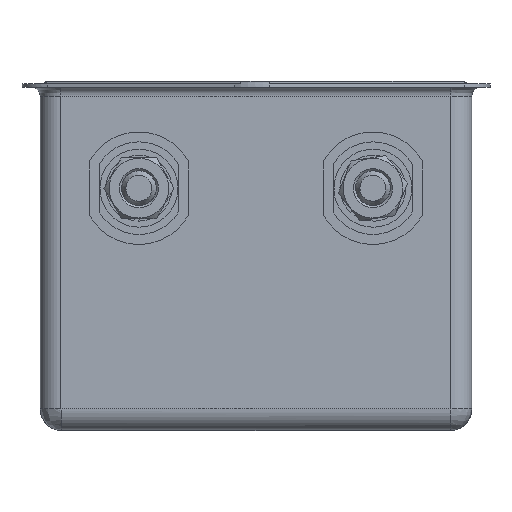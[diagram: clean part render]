
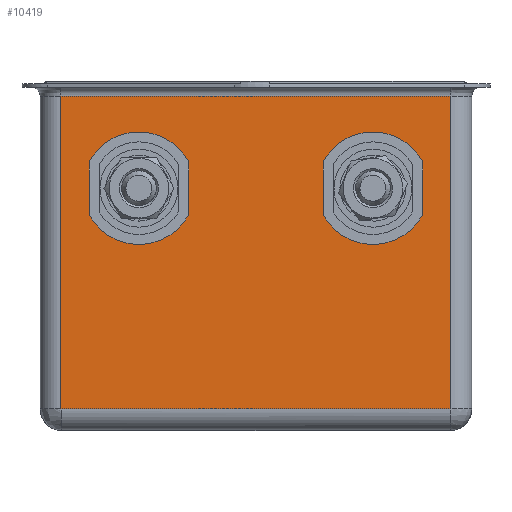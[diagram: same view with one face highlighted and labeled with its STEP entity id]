
A CAD part, left-side view. The second image highlights one B-rep face of the part: STEP entity #10419.
In plain terms, the highlighted planar face has unit normal (-1, 0, 0).
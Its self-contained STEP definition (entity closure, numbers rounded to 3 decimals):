
#6710=CARTESIAN_POINT('',(-18.073,32.813,2.5));
#6711=VERTEX_POINT('',#6710);
#6720=CARTESIAN_POINT('',(-18.073,-12.187,2.5));
#6721=VERTEX_POINT('',#6720);
#6729=CARTESIAN_POINT('',(-18.073,-12.187,2.5));
#6730=DIRECTION('',(0.0,1.0,0.0));
#6731=VECTOR('',#6730,45.0);
#6732=LINE('',#6729,#6731);
#6733=EDGE_CURVE('',#6721,#6711,#6732,.T.);
#6994=CARTESIAN_POINT('',(-18.073,32.813,38.6));
#6995=VERTEX_POINT('',#6994);
#7005=CARTESIAN_POINT('',(-18.073,32.813,2.5));
#7006=DIRECTION('',(0.0,0.0,1.0));
#7007=VECTOR('',#7006,36.1);
#7008=LINE('',#7005,#7007);
#7009=EDGE_CURVE('',#6711,#6995,#7008,.T.);
#7019=CARTESIAN_POINT('',(-18.073,-12.187,38.6));
#7020=VERTEX_POINT('',#7019);
#7030=CARTESIAN_POINT('',(-18.073,-12.187,38.6));
#7031=DIRECTION('',(0.0,0.0,-1.0));
#7032=VECTOR('',#7031,36.1);
#7033=LINE('',#7030,#7032);
#7034=EDGE_CURVE('',#7020,#6721,#7033,.T.);
#8003=CARTESIAN_POINT('',(-18.073,32.813,38.6));
#8004=DIRECTION('',(0.0,-1.0,0.0));
#8005=VECTOR('',#8004,45.);
#8006=LINE('',#8003,#8005);
#8007=EDGE_CURVE('',#6995,#7020,#8006,.T.);
#10160=CARTESIAN_POINT('',(-18.073,2.574,24.943));
#10161=VERTEX_POINT('',#10160);
#10162=CARTESIAN_POINT('',(-18.073,2.574,31.005));
#10163=VERTEX_POINT('',#10162);
#10164=CARTESIAN_POINT('',(-18.073,2.574,24.943));
#10165=DIRECTION('',(0.0,0.0,1.0));
#10166=VECTOR('',#10165,6.062);
#10167=LINE('',#10164,#10166);
#10168=EDGE_CURVE('',#10161,#10163,#10167,.T.);
#10191=CARTESIAN_POINT('',(-18.073,-8.926,31.005));
#10192=VERTEX_POINT('',#10191);
#10193=CARTESIAN_POINT('',(-18.073,-3.176,27.974));
#10194=DIRECTION('',(1.0,0.,0.));
#10195=DIRECTION('',(0.,-0.885,-0.466));
#10196=AXIS2_PLACEMENT_3D('',#10193,#10194,#10195);
#10197=CIRCLE('',#10196,6.5);
#10198=EDGE_CURVE('',#10163,#10192,#10197,.T.);
#10216=CARTESIAN_POINT('',(-18.073,-8.926,24.943));
#10217=VERTEX_POINT('',#10216);
#10218=CARTESIAN_POINT('',(-18.073,-8.926,31.005));
#10219=DIRECTION('',(0.0,0.0,-1.0));
#10220=VECTOR('',#10219,6.062);
#10221=LINE('',#10218,#10220);
#10222=EDGE_CURVE('',#10192,#10217,#10221,.T.);
#10240=CARTESIAN_POINT('',(-18.073,-3.176,27.974));
#10241=DIRECTION('',(1.0,0.,0.));
#10242=DIRECTION('',(0.,0.885,0.466));
#10243=AXIS2_PLACEMENT_3D('',#10240,#10241,#10242);
#10244=CIRCLE('',#10243,6.5);
#10245=EDGE_CURVE('',#10217,#10161,#10244,.T.);
#10366=CARTESIAN_POINT('',(-18.073,-14.587,0.0));
#10367=DIRECTION('',(-1.0,0.0,0.0));
#10368=DIRECTION('',(0.0,0.0,1.0));
#10369=AXIS2_PLACEMENT_3D('',#10366,#10367,#10368);
#10370=PLANE('',#10369);
#10371=ORIENTED_EDGE('',*,*,#8007,.F.);
#10372=ORIENTED_EDGE('',*,*,#7009,.F.);
#10373=ORIENTED_EDGE('',*,*,#6733,.F.);
#10374=ORIENTED_EDGE('',*,*,#7034,.F.);
#10375=EDGE_LOOP('',(#10371,#10372,#10373,#10374));
#10376=FACE_OUTER_BOUND('',#10375,.T.);
#10377=ORIENTED_EDGE('',*,*,#10245,.T.);
#10378=ORIENTED_EDGE('',*,*,#10168,.T.);
#10379=ORIENTED_EDGE('',*,*,#10198,.T.);
#10380=ORIENTED_EDGE('',*,*,#10222,.T.);
#10381=EDGE_LOOP('',(#10377,#10378,#10379,#10380));
#10382=FACE_BOUND('',#10381,.T.);
#10383=CARTESIAN_POINT('',(-18.073,18.074,24.943));
#10384=VERTEX_POINT('',#10383);
#10385=CARTESIAN_POINT('',(-18.073,29.574,24.943));
#10386=VERTEX_POINT('',#10385);
#10387=CARTESIAN_POINT('',(-18.073,23.824,27.974));
#10388=DIRECTION('',(1.,0.,0.));
#10389=DIRECTION('',(0.,0.885,0.466));
#10390=AXIS2_PLACEMENT_3D('',#10387,#10388,#10389);
#10391=CIRCLE('',#10390,6.5);
#10392=EDGE_CURVE('',#10384,#10386,#10391,.T.);
#10393=ORIENTED_EDGE('',*,*,#10392,.T.);
#10394=CARTESIAN_POINT('',(-18.073,29.574,31.005));
#10395=VERTEX_POINT('',#10394);
#10396=CARTESIAN_POINT('',(-18.073,29.574,24.943));
#10397=DIRECTION('',(0.0,0.0,1.0));
#10398=VECTOR('',#10397,6.062);
#10399=LINE('',#10396,#10398);
#10400=EDGE_CURVE('',#10386,#10395,#10399,.T.);
#10401=ORIENTED_EDGE('',*,*,#10400,.T.);
#10402=CARTESIAN_POINT('',(-18.073,18.074,31.005));
#10403=VERTEX_POINT('',#10402);
#10404=CARTESIAN_POINT('',(-18.073,23.824,27.974));
#10405=DIRECTION('',(1.,0.,0.));
#10406=DIRECTION('',(0.,-0.885,-0.466));
#10407=AXIS2_PLACEMENT_3D('',#10404,#10405,#10406);
#10408=CIRCLE('',#10407,6.5);
#10409=EDGE_CURVE('',#10395,#10403,#10408,.T.);
#10410=ORIENTED_EDGE('',*,*,#10409,.T.);
#10411=CARTESIAN_POINT('',(-18.073,18.074,31.005));
#10412=DIRECTION('',(0.0,0.0,-1.0));
#10413=VECTOR('',#10412,6.062);
#10414=LINE('',#10411,#10413);
#10415=EDGE_CURVE('',#10403,#10384,#10414,.T.);
#10416=ORIENTED_EDGE('',*,*,#10415,.T.);
#10417=EDGE_LOOP('',(#10393,#10401,#10410,#10416));
#10418=FACE_BOUND('',#10417,.T.);
#10419=ADVANCED_FACE('',(#10376,#10382,#10418),#10370,.T.);
